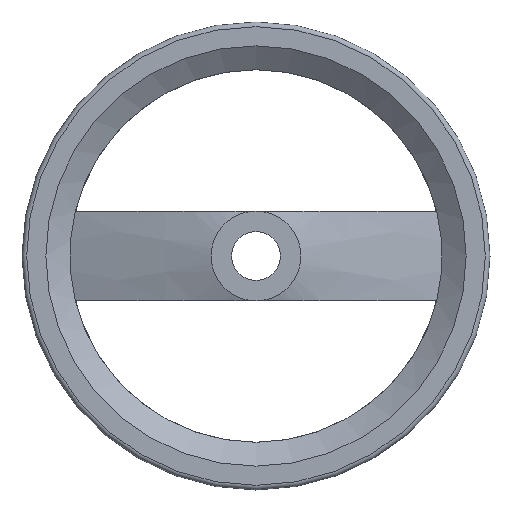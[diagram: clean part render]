
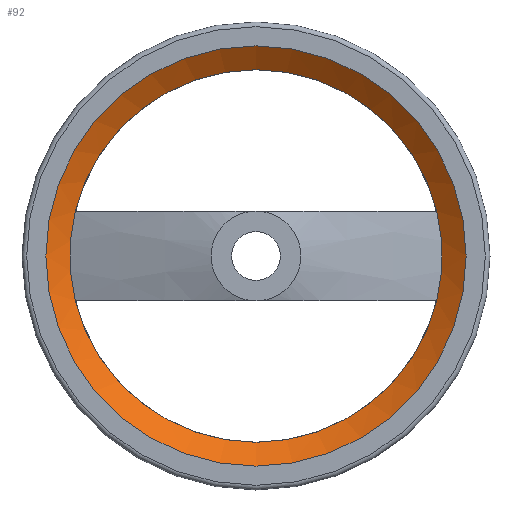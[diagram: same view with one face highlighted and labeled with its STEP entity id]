
A CAD part, left-side view. The second image highlights one B-rep face of the part: STEP entity #92.
In plain terms, the highlighted conical face has half-angle 54.129 degrees and reference radius 99.5 mm.
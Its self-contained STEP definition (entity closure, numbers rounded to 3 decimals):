
#92 = ADVANCED_FACE( '', ( #141, #142 ), #143, .F. );
#141 = FACE_OUTER_BOUND( '', #192, .T. );
#142 = FACE_BOUND( '', #193, .T. );
#143 = CONICAL_SURFACE( '', #194, 99.5, 0.945 );
#192 = EDGE_LOOP( '', ( #305 ) );
#193 = EDGE_LOOP( '', ( #306, #307, #308, #309 ) );
#194 = AXIS2_PLACEMENT_3D( '', #310, #311, #312 );
#305 = ORIENTED_EDGE( '', *, *, #344, .T. );
#306 = ORIENTED_EDGE( '', *, *, #332, .F. );
#307 = ORIENTED_EDGE( '', *, *, #350, .T. );
#308 = ORIENTED_EDGE( '', *, *, #338, .F. );
#309 = ORIENTED_EDGE( '', *, *, #349, .T. );
#310 = CARTESIAN_POINT( '', ( 37.22, 0., 0. ) );
#311 = DIRECTION( '', ( -1., 0., 0. ) );
#312 = DIRECTION( '', ( 0., 0., 1. ) );
#332 = EDGE_CURVE( '', #360, #366, #377, .T. );
#338 = EDGE_CURVE( '', #372, #354, #386, .T. );
#344 = EDGE_CURVE( '', #395, #395, #396, .T. );
#349 = EDGE_CURVE( '', #372, #366, #404, .F. );
#350 = EDGE_CURVE( '', #360, #354, #405, .F. );
#354 = VERTEX_POINT( '', #410 );
#360 = VERTEX_POINT( '', #453 );
#366 = VERTEX_POINT( '', #502 );
#372 = VERTEX_POINT( '', #545 );
#377 = CIRCLE( '', #593, 99.5 );
#386 = CIRCLE( '', #602, 99.5 );
#395 = VERTEX_POINT( '', #611 );
#396 = CIRCLE( '', #612, 112.25 );
#404 = CIRCLE( '', #620, 99.5 );
#405 = CIRCLE( '', #621, 99.5 );
#410 = CARTESIAN_POINT( '', ( 37.22, 96.562, -24. ) );
#453 = CARTESIAN_POINT( '', ( 37.22, -96.562, -24. ) );
#502 = CARTESIAN_POINT( '', ( 37.22, -96.562, 24. ) );
#545 = CARTESIAN_POINT( '', ( 37.22, 96.562, 24. ) );
#593 = AXIS2_PLACEMENT_3D( '', #629, #630, #631 );
#602 = AXIS2_PLACEMENT_3D( '', #647, #648, #649 );
#611 = CARTESIAN_POINT( '', ( 28., 0., 112.25 ) );
#612 = AXIS2_PLACEMENT_3D( '', #665, #666, #667 );
#620 = AXIS2_PLACEMENT_3D( '', #680, #681, #682 );
#621 = AXIS2_PLACEMENT_3D( '', #683, #684, #685 );
#629 = CARTESIAN_POINT( '', ( 37.22, 0., 0. ) );
#630 = DIRECTION( '', ( -1., 0., 0. ) );
#631 = DIRECTION( '', ( 0., 0., 1. ) );
#647 = CARTESIAN_POINT( '', ( 37.22, 0., 0. ) );
#648 = DIRECTION( '', ( -1., 0., 0. ) );
#649 = DIRECTION( '', ( 0., 0., 1. ) );
#665 = CARTESIAN_POINT( '', ( 28., 0., 0. ) );
#666 = DIRECTION( '', ( -1., 0., 0. ) );
#667 = DIRECTION( '', ( 0., 0., 1. ) );
#680 = CARTESIAN_POINT( '', ( 37.22, 0., 0. ) );
#681 = DIRECTION( '', ( -1., 0., 0. ) );
#682 = DIRECTION( '', ( 0., 0., 1. ) );
#683 = CARTESIAN_POINT( '', ( 37.22, 0., 0. ) );
#684 = DIRECTION( '', ( -1., 0., 0. ) );
#685 = DIRECTION( '', ( 0., 0., 1. ) );
